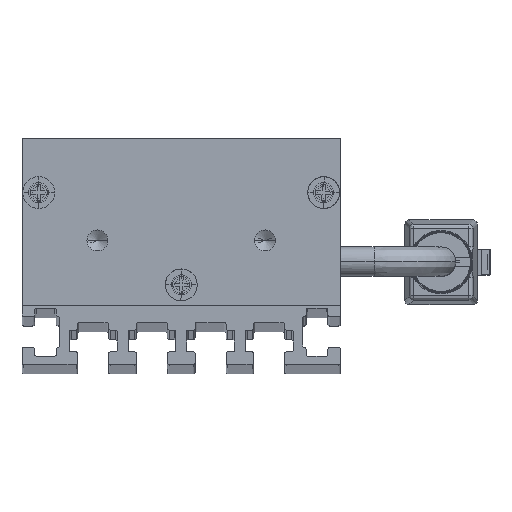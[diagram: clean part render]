
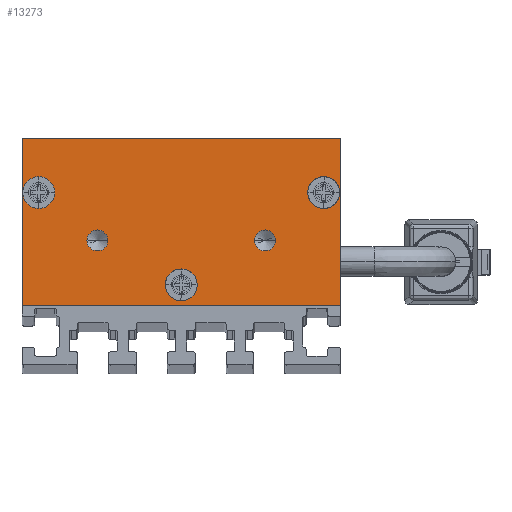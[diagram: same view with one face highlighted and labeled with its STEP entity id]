
A CAD part, top view. The second image highlights one B-rep face of the part: STEP entity #13273.
In plain terms, the highlighted planar face has unit normal (0, 0, 1) as drawn and (0, 0, -1) by its records, which use the part's own axes.
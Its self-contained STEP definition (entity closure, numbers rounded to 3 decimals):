
#10 = ORIENTED_EDGE ( 'NONE', *, *, #701, .F. ) ;
#116 = DIRECTION ( 'NONE',  ( -1., 0., 0. ) ) ;
#135 = VERTEX_POINT ( 'NONE', #13758 ) ;
#291 = ORIENTED_EDGE ( 'NONE', *, *, #4600, .F. ) ;
#312 = DIRECTION ( 'NONE',  ( 0., 0., -1. ) ) ;
#368 = ORIENTED_EDGE ( 'NONE', *, *, #11586, .F. ) ;
#638 = VECTOR ( 'NONE', #6762, 1000. ) ;
#701 = EDGE_CURVE ( 'NONE', #14650, #10970, #15740, .T. ) ;
#702 = ORIENTED_EDGE ( 'NONE', *, *, #15110, .F. ) ;
#743 = ORIENTED_EDGE ( 'NONE', *, *, #950, .F. ) ;
#908 = CARTESIAN_POINT ( 'NONE',  ( 11.25, 7.8, -2.5 ) ) ;
#950 = EDGE_CURVE ( 'NONE', #13056, #13452, #4106, .T. ) ;
#1105 = DIRECTION ( 'NONE',  ( 0., 1., 0. ) ) ;
#1286 = CARTESIAN_POINT ( 'NONE',  ( -19., 20., -2.5 ) ) ;
#1317 = ORIENTED_EDGE ( 'NONE', *, *, #13053, .F. ) ;
#1440 = CARTESIAN_POINT ( 'NONE',  ( -1.9, 2.5, -2.5 ) ) ;
#1515 = CIRCLE ( 'NONE', #9445, 1.9 ) ;
#1544 = FACE_OUTER_BOUND ( 'NONE', #5296, .T. ) ;
#1655 = CIRCLE ( 'NONE', #15159, 1.9 ) ;
#1799 = VERTEX_POINT ( 'NONE', #11337 ) ;
#1884 = FACE_BOUND ( 'NONE', #15526, .T. ) ;
#1902 = DIRECTION ( 'NONE',  ( -1., 0., 0. ) ) ;
#2282 = DIRECTION ( 'NONE',  ( 0., 0., -1. ) ) ;
#2329 = CARTESIAN_POINT ( 'NONE',  ( -10., 7.8, -2.5 ) ) ;
#2338 = CIRCLE ( 'NONE', #4444, 1.25 ) ;
#2533 = VERTEX_POINT ( 'NONE', #13191 ) ;
#2831 = ORIENTED_EDGE ( 'NONE', *, *, #3930, .F. ) ;
#3145 = FACE_BOUND ( 'NONE', #14196, .T. ) ;
#3197 = CARTESIAN_POINT ( 'NONE',  ( -15.1, 13.5, -2.5 ) ) ;
#3252 = AXIS2_PLACEMENT_3D ( 'NONE', #2329, #5962, #7348 ) ;
#3294 = EDGE_CURVE ( 'NONE', #4326, #4266, #13237, .T. ) ;
#3409 = CARTESIAN_POINT ( 'NONE',  ( 15.1, 13.5, -2.5 ) ) ;
#3482 = DIRECTION ( 'NONE',  ( -1., 0., 0. ) ) ;
#3539 = AXIS2_PLACEMENT_3D ( 'NONE', #14404, #13137, #15490 ) ;
#3563 = CARTESIAN_POINT ( 'NONE',  ( 0., 2.5, -2.5 ) ) ;
#3655 = DIRECTION ( 'NONE',  ( 0., 0., -1. ) ) ;
#3732 = EDGE_CURVE ( 'NONE', #9814, #135, #10287, .T. ) ;
#3876 = LINE ( 'NONE', #1286, #16202 ) ;
#3919 = DIRECTION ( 'NONE',  ( 0., 0., -1. ) ) ;
#3930 = EDGE_CURVE ( 'NONE', #4266, #4326, #6854, .T. ) ;
#4106 = CIRCLE ( 'NONE', #11493, 1.25 ) ;
#4118 = DIRECTION ( 'NONE',  ( 0., -1., 0. ) ) ;
#4212 = ORIENTED_EDGE ( 'NONE', *, *, #3732, .F. ) ;
#4221 = CARTESIAN_POINT ( 'NONE',  ( -19., 0., -2.5 ) ) ;
#4266 = VERTEX_POINT ( 'NONE', #10195 ) ;
#4297 = CIRCLE ( 'NONE', #3252, 1.25 ) ;
#4326 = VERTEX_POINT ( 'NONE', #3197 ) ;
#4444 = AXIS2_PLACEMENT_3D ( 'NONE', #4843, #9948, #6307 ) ;
#4600 = EDGE_CURVE ( 'NONE', #135, #9814, #8731, .T. ) ;
#4843 = CARTESIAN_POINT ( 'NONE',  ( -10., 7.8, -2.5 ) ) ;
#5147 = CARTESIAN_POINT ( 'NONE',  ( 0., 2.5, -2.5 ) ) ;
#5296 = EDGE_LOOP ( 'NONE', ( #15036, #7581, #9734, #10 ) ) ;
#5442 = FACE_BOUND ( 'NONE', #8997, .T. ) ;
#5624 = EDGE_CURVE ( 'NONE', #14466, #15580, #4297, .T. ) ;
#5962 = DIRECTION ( 'NONE',  ( 0., 0., -1. ) ) ;
#6097 = DIRECTION ( 'NONE',  ( 0., 0., -1. ) ) ;
#6206 = LINE ( 'NONE', #7753, #11631 ) ;
#6256 = DIRECTION ( 'NONE',  ( -1., 0., 0. ) ) ;
#6307 = DIRECTION ( 'NONE',  ( -1., 0., 0. ) ) ;
#6674 = FACE_BOUND ( 'NONE', #8854, .T. ) ;
#6677 = EDGE_LOOP ( 'NONE', ( #15889, #7651 ) ) ;
#6762 = DIRECTION ( 'NONE',  ( 1., 0., 0. ) ) ;
#6854 = CIRCLE ( 'NONE', #12170, 1.9 ) ;
#6930 = CARTESIAN_POINT ( 'NONE',  ( -11.25, 7.8, -2.5 ) ) ;
#7299 = DIRECTION ( 'NONE',  ( -1., 0., 0. ) ) ;
#7331 = DIRECTION ( 'NONE',  ( 0., 0., -1. ) ) ;
#7348 = DIRECTION ( 'NONE',  ( -1., 0., 0. ) ) ;
#7379 = CARTESIAN_POINT ( 'NONE',  ( 19., 20., -2.5 ) ) ;
#7421 = CIRCLE ( 'NONE', #8460, 1.25 ) ;
#7541 = CARTESIAN_POINT ( 'NONE',  ( 19., 20., -2.5 ) ) ;
#7581 = ORIENTED_EDGE ( 'NONE', *, *, #8992, .F. ) ;
#7651 = ORIENTED_EDGE ( 'NONE', *, *, #5624, .F. ) ;
#7753 = CARTESIAN_POINT ( 'NONE',  ( -19., 20., -2.5 ) ) ;
#8225 = DIRECTION ( 'NONE',  ( -1., 0., 0. ) ) ;
#8239 = CARTESIAN_POINT ( 'NONE',  ( 8.75, 7.8, -2.5 ) ) ;
#8460 = AXIS2_PLACEMENT_3D ( 'NONE', #12912, #312, #1902 ) ;
#8719 = CARTESIAN_POINT ( 'NONE',  ( -19., 0., -2.5 ) ) ;
#8731 = CIRCLE ( 'NONE', #9271, 1.9 ) ;
#8854 = EDGE_LOOP ( 'NONE', ( #2831, #9084 ) ) ;
#8931 = DIRECTION ( 'NONE',  ( -1., 0., 0. ) ) ;
#8966 = DIRECTION ( 'NONE',  ( 0., 0., -1. ) ) ;
#8992 = EDGE_CURVE ( 'NONE', #15071, #1799, #6206, .T. ) ;
#8997 = EDGE_LOOP ( 'NONE', ( #702, #1317 ) ) ;
#9084 = ORIENTED_EDGE ( 'NONE', *, *, #3294, .F. ) ;
#9271 = AXIS2_PLACEMENT_3D ( 'NONE', #5147, #3919, #8931 ) ;
#9359 = VERTEX_POINT ( 'NONE', #3409 ) ;
#9445 = AXIS2_PLACEMENT_3D ( 'NONE', #12442, #2282, #7299 ) ;
#9734 = ORIENTED_EDGE ( 'NONE', *, *, #12201, .F. ) ;
#9814 = VERTEX_POINT ( 'NONE', #1440 ) ;
#9948 = DIRECTION ( 'NONE',  ( 0., 0., -1. ) ) ;
#10195 = CARTESIAN_POINT ( 'NONE',  ( -18.9, 13.5, -2.5 ) ) ;
#10287 = CIRCLE ( 'NONE', #14014, 1.9 ) ;
#10416 = EDGE_CURVE ( 'NONE', #1799, #14650, #3876, .T. ) ;
#10633 = DIRECTION ( 'NONE',  ( 0., 0., -1. ) ) ;
#10970 = VERTEX_POINT ( 'NONE', #13025 ) ;
#11337 = CARTESIAN_POINT ( 'NONE',  ( -19., 20., -2.5 ) ) ;
#11468 = CARTESIAN_POINT ( 'NONE',  ( -17., 13.5, -2.5 ) ) ;
#11493 = AXIS2_PLACEMENT_3D ( 'NONE', #13897, #7331, #6256 ) ;
#11586 = EDGE_CURVE ( 'NONE', #13452, #13056, #7421, .T. ) ;
#11631 = VECTOR ( 'NONE', #14079, 1000. ) ;
#11978 = PLANE ( 'NONE',  #3539 ) ;
#12170 = AXIS2_PLACEMENT_3D ( 'NONE', #11468, #8966, #116 ) ;
#12201 = EDGE_CURVE ( 'NONE', #10970, #15071, #14958, .T. ) ;
#12442 = CARTESIAN_POINT ( 'NONE',  ( 17., 13.5, -2.5 ) ) ;
#12485 = VECTOR ( 'NONE', #1105, 1000. ) ;
#12655 = AXIS2_PLACEMENT_3D ( 'NONE', #14301, #10633, #8225 ) ;
#12912 = CARTESIAN_POINT ( 'NONE',  ( 10., 7.8, -2.5 ) ) ;
#13025 = CARTESIAN_POINT ( 'NONE',  ( 19., 0., -2.5 ) ) ;
#13053 = EDGE_CURVE ( 'NONE', #2533, #9359, #1655, .T. ) ;
#13056 = VERTEX_POINT ( 'NONE', #908 ) ;
#13137 = DIRECTION ( 'NONE',  ( 0., 0., 1. ) ) ;
#13191 = CARTESIAN_POINT ( 'NONE',  ( 18.9, 13.5, -2.5 ) ) ;
#13224 = FACE_BOUND ( 'NONE', #6677, .T. ) ;
#13237 = CIRCLE ( 'NONE', #12655, 1.9 ) ;
#13273 = ADVANCED_FACE ( 'NONE', ( #5442, #3145, #6674, #1884, #13224, #1544 ), #11978, .F. ) ;
#13452 = VERTEX_POINT ( 'NONE', #8239 ) ;
#13758 = CARTESIAN_POINT ( 'NONE',  ( 1.9, 2.5, -2.5 ) ) ;
#13897 = CARTESIAN_POINT ( 'NONE',  ( 10., 7.8, -2.5 ) ) ;
#14014 = AXIS2_PLACEMENT_3D ( 'NONE', #3563, #6097, #3482 ) ;
#14079 = DIRECTION ( 'NONE',  ( -1., 0., 0. ) ) ;
#14196 = EDGE_LOOP ( 'NONE', ( #4212, #291 ) ) ;
#14301 = CARTESIAN_POINT ( 'NONE',  ( -17., 13.5, -2.5 ) ) ;
#14404 = CARTESIAN_POINT ( 'NONE',  ( 0., 0., -2.5 ) ) ;
#14466 = VERTEX_POINT ( 'NONE', #16061 ) ;
#14650 = VERTEX_POINT ( 'NONE', #8719 ) ;
#14958 = LINE ( 'NONE', #7379, #12485 ) ;
#15036 = ORIENTED_EDGE ( 'NONE', *, *, #10416, .F. ) ;
#15071 = VERTEX_POINT ( 'NONE', #7541 ) ;
#15110 = EDGE_CURVE ( 'NONE', #9359, #2533, #1515, .T. ) ;
#15112 = EDGE_CURVE ( 'NONE', #15580, #14466, #2338, .T. ) ;
#15159 = AXIS2_PLACEMENT_3D ( 'NONE', #16164, #3655, #16007 ) ;
#15490 = DIRECTION ( 'NONE',  ( 1., 0., 0. ) ) ;
#15526 = EDGE_LOOP ( 'NONE', ( #368, #743 ) ) ;
#15580 = VERTEX_POINT ( 'NONE', #6930 ) ;
#15740 = LINE ( 'NONE', #4221, #638 ) ;
#15889 = ORIENTED_EDGE ( 'NONE', *, *, #15112, .F. ) ;
#16007 = DIRECTION ( 'NONE',  ( -1., 0., 0. ) ) ;
#16061 = CARTESIAN_POINT ( 'NONE',  ( -8.75, 7.8, -2.5 ) ) ;
#16164 = CARTESIAN_POINT ( 'NONE',  ( 17., 13.5, -2.5 ) ) ;
#16202 = VECTOR ( 'NONE', #4118, 1000. ) ;
